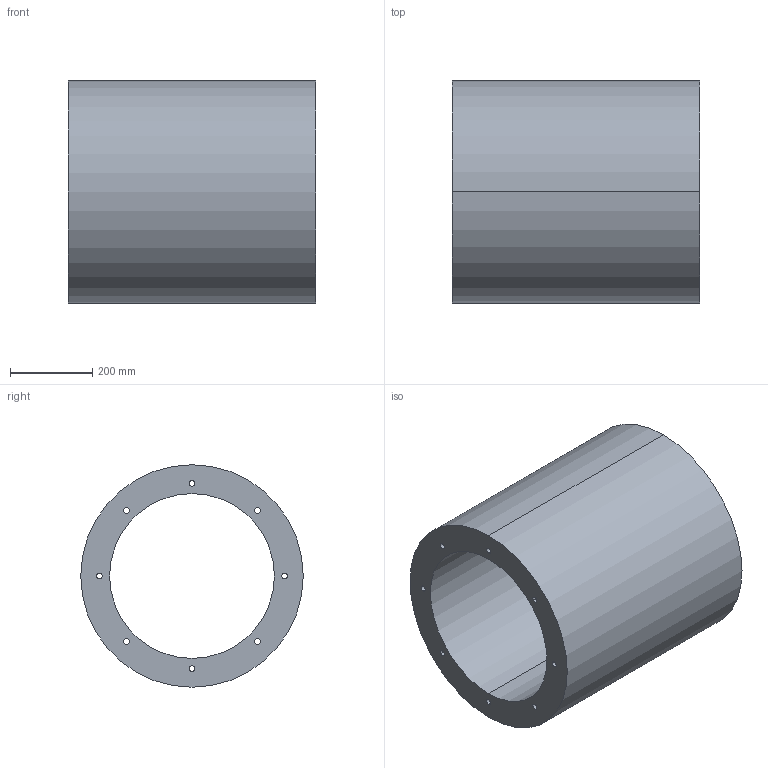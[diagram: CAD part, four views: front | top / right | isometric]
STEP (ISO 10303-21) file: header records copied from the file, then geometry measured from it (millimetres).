
FILE_DESCRIPTION(('STEP AP214'),'1');
FILE_NAME('accessory_5211810000.stp','2017-10-09T11:37:15',('TraceParts'),('TraceParts S.A.'),'Spatial InterOp 3D',' ',' ');
FILE_SCHEMA(('automotive_design'));
Length unit declared in the file: millimetre
Products named in the file (1): accessory_5211810000
Bounding box: 600 x 540 x 540 mm (x, y, z)
Volume: 61276136.4 mm3; surface area: 2187227.1 mm2
Topology: 1 solids, 1 shells, 22 faces, 60 edges, 40 vertices
Faces by surface type: cylinder 20, plane 2
Entity records: 952 total; most frequent: DIRECTION 146, CARTESIAN_POINT 123, ORIENTED_EDGE 120, AXIS2_PLACEMENT_3D 63, EDGE_CURVE 60, EDGE_LOOP 40, VERTEX_POINT 40, CIRCLE 40
